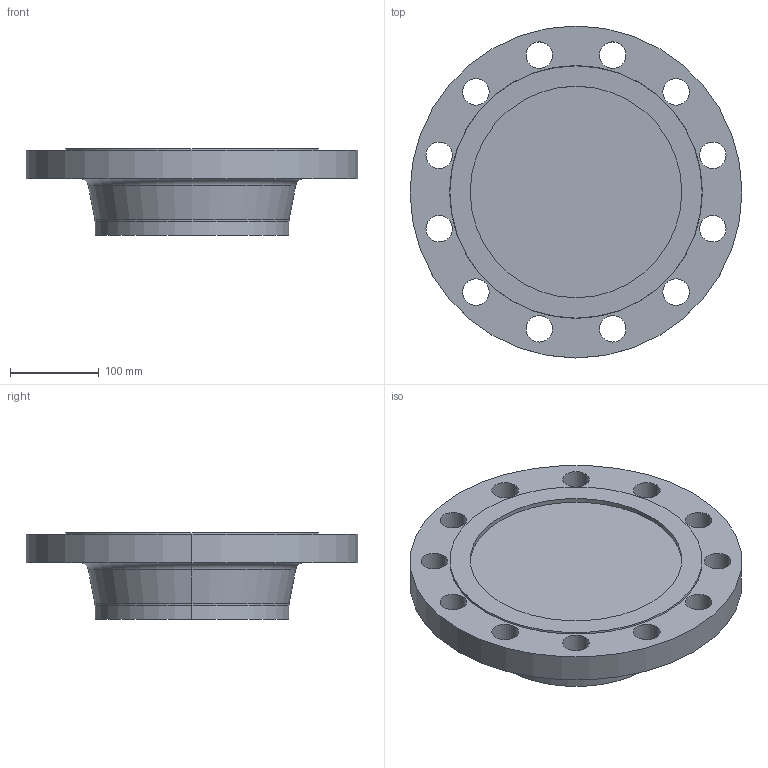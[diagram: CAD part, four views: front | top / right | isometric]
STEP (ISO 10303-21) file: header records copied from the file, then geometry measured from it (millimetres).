
FILE_DESCRIPTION (( 'STEP AP214' ), '1' );
FILE_NAME ('PN40 DN200 Type 21(ii) - Type G Face.STEP', '2019-01-05T01:41:45', ( '' ), ( '' ), 'SwSTEP 2.0', 'SolidWorks 2019', '' );
FILE_SCHEMA (( 'AUTOMOTIVE_DESIGN' ));
Length unit declared in the file: millimetre
Products named in the file (1): PN40 DN200 Type 21(ii) - Type G Face
Bounding box: 375 x 375 x 98 mm (x, y, z)
Volume: 5743025 mm3; surface area: 320544.3 mm2
Topology: 1 solids, 1 shells, 43 faces, 108 edges, 70 vertices
Faces by surface type: cylinder 30, plane 5, torus 4, cone 4
Entity records: 1410 total; most frequent: DIRECTION 270, CARTESIAN_POINT 222, ORIENTED_EDGE 216, AXIS2_PLACEMENT_3D 118, EDGE_CURVE 108, CIRCLE 74, EDGE_LOOP 70, VERTEX_POINT 70
